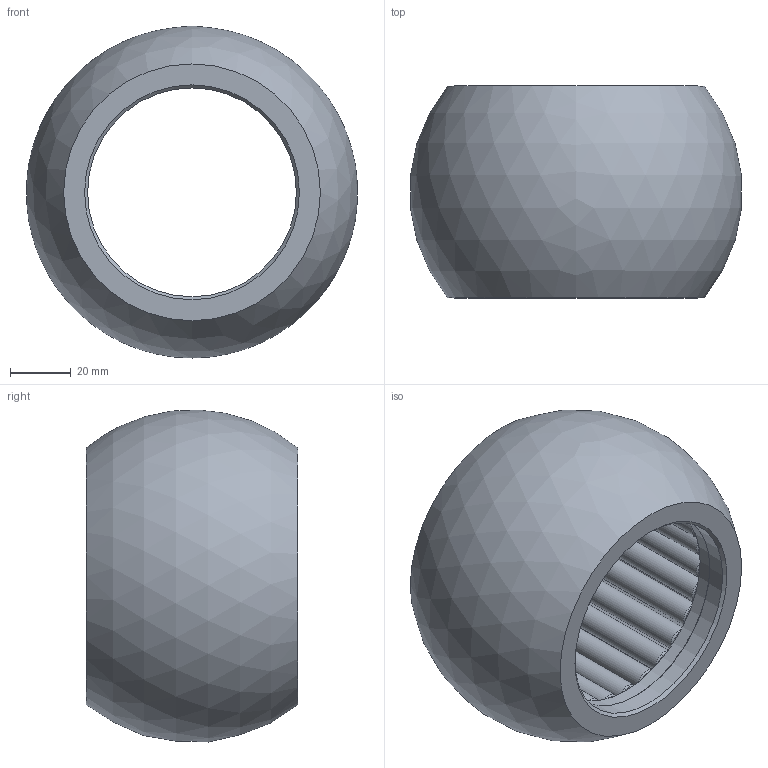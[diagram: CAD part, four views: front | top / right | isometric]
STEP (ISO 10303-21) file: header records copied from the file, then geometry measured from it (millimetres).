
FILE_DESCRIPTION(('STEP AP214'),'1');
FILE_NAME('C:/Projets/Serie 15.xx.xx/15.xx.69.step','2011-11-14T14:48:50',(' '),(' '),'Spatial InterOp 3D',' ',' ');
FILE_SCHEMA(('automotive_design'));
Length unit declared in the file: metre
Products named in the file (31): rotule; frette; @730; @742
Bounding box: 109.31 x 70 x 109.69 mm (x, y, z)
Volume: 279089.2 mm3; surface area: 128653.1 mm2
Topology: 31 solids, 31 shells, 377 faces, 715 edges, 458 vertices
Faces by surface type: cylinder 146, plane 120, cone 110, sphere 1
Full cylindrical faces by diameter (mm): 2.8 x54, 3.5 x54, 8 x27, 69 x2, 70 x2, 84 x2, 85 x1, 86 x2, 93 x2
Entity records: 11528 total; most frequent: DIRECTION 1624, CARTESIAN_POINT 1216, AXIS2_PLACEMENT_3D 812, EDGE_LOOP 808, ORIENTED_EDGE 808, FACE_OUTER_BOUND 524, EDGE_CURVE 404, VERTEX_POINT 404
